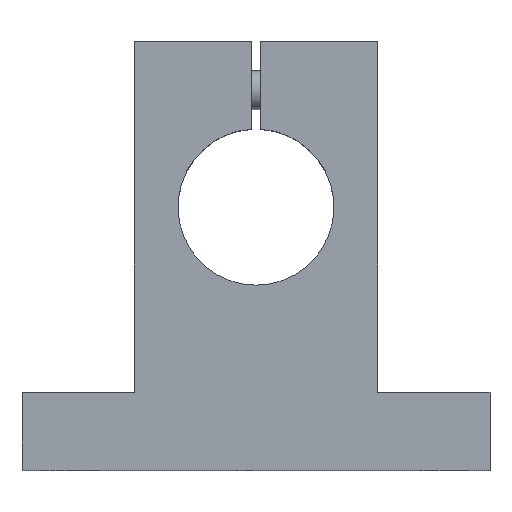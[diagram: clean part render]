
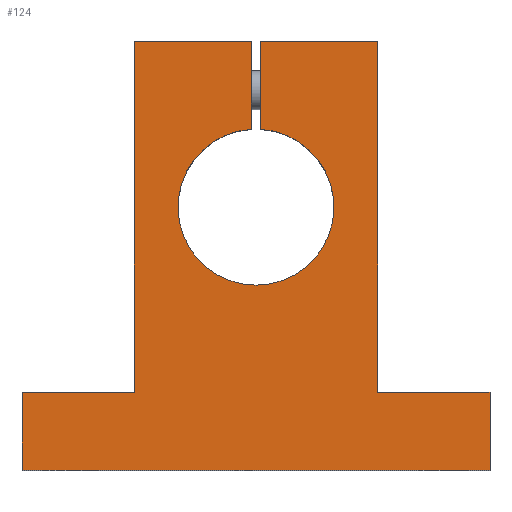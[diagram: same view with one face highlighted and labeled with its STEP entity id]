
A CAD part, top view. The second image highlights one B-rep face of the part: STEP entity #124.
In plain terms, the highlighted planar face has unit normal (0, 0, 1).
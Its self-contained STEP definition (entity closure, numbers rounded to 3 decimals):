
#124=ADVANCED_FACE('',(#160),#161,.T.);
#160=FACE_OUTER_BOUND('',#248,.T.);
#161=PLANE('',#249);
#248=EDGE_LOOP('',(#341,#342,#343,#344,#345,#346,#347,#348,#349,#350,#351,#352));
#249=AXIS2_PLACEMENT_3D('',#353,#354,#355);
#341=ORIENTED_EDGE('',*,*,#580,.F.);
#342=ORIENTED_EDGE('',*,*,#578,.F.);
#343=ORIENTED_EDGE('',*,*,#581,.F.);
#344=ORIENTED_EDGE('',*,*,#582,.F.);
#345=ORIENTED_EDGE('',*,*,#583,.F.);
#346=ORIENTED_EDGE('',*,*,#584,.F.);
#347=ORIENTED_EDGE('',*,*,#585,.F.);
#348=ORIENTED_EDGE('',*,*,#586,.F.);
#349=ORIENTED_EDGE('',*,*,#587,.F.);
#350=ORIENTED_EDGE('',*,*,#588,.F.);
#351=ORIENTED_EDGE('',*,*,#589,.F.);
#352=ORIENTED_EDGE('',*,*,#590,.F.);
#353=CARTESIAN_POINT('',(0.0,0.0,8.0));
#354=DIRECTION('',(0.0,0.0,1.0));
#355=DIRECTION('',(1.0,0.0,0.0));
#578=EDGE_CURVE('',#649,#651,#652,.T.);
#580=EDGE_CURVE('',#651,#654,#655,.T.);
#581=EDGE_CURVE('',#656,#649,#657,.T.);
#582=EDGE_CURVE('',#658,#656,#659,.T.);
#583=EDGE_CURVE('',#660,#658,#661,.T.);
#584=EDGE_CURVE('',#662,#660,#663,.T.);
#585=EDGE_CURVE('',#664,#662,#665,.T.);
#586=EDGE_CURVE('',#666,#664,#667,.T.);
#587=EDGE_CURVE('',#668,#666,#669,.T.);
#588=EDGE_CURVE('',#670,#668,#671,.T.);
#589=EDGE_CURVE('',#672,#670,#673,.T.);
#590=EDGE_CURVE('',#654,#672,#674,.T.);
#649=VERTEX_POINT('',#772);
#651=VERTEX_POINT('',#775);
#652=LINE('',#776,#777);
#654=VERTEX_POINT('',#780);
#655=LINE('',#781,#782);
#656=VERTEX_POINT('',#783);
#657=LINE('',#784,#785);
#658=VERTEX_POINT('',#786);
#659=LINE('',#787,#788);
#660=VERTEX_POINT('',#789);
#661=LINE('',#790,#791);
#662=VERTEX_POINT('',#792);
#663=LINE('',#793,#794);
#664=VERTEX_POINT('',#795);
#665=LINE('',#796,#797);
#666=VERTEX_POINT('',#798);
#667=LINE('',#799,#800);
#668=VERTEX_POINT('',#801);
#669=CIRCLE('',#802,8.0);
#670=VERTEX_POINT('',#803);
#671=LINE('',#804,#805);
#672=VERTEX_POINT('',#806);
#673=LINE('',#807,#808);
#674=LINE('',#809,#810);
#772=CARTESIAN_POINT('',(-24.0,-27.0,8.0));
#775=CARTESIAN_POINT('',(-24.0,-19.0,8.0));
#776=CARTESIAN_POINT('',(-24.0,-27.0,8.0));
#777=VECTOR('',#977,1.0);
#780=CARTESIAN_POINT('',(-12.5,-19.0,8.0));
#781=CARTESIAN_POINT('',(-24.0,-19.0,8.0));
#782=VECTOR('',#979,1.0);
#783=CARTESIAN_POINT('',(24.0,-27.0,8.0));
#784=CARTESIAN_POINT('',(24.0,-27.0,8.0));
#785=VECTOR('',#980,1.0);
#786=CARTESIAN_POINT('',(24.0,-19.0,8.0));
#787=CARTESIAN_POINT('',(24.0,-19.0,8.0));
#788=VECTOR('',#981,1.0);
#789=CARTESIAN_POINT('',(12.5,-19.0,8.0));
#790=CARTESIAN_POINT('',(12.5,-19.0,8.0));
#791=VECTOR('',#982,1.0);
#792=CARTESIAN_POINT('',(12.5,17.0,8.0));
#793=CARTESIAN_POINT('',(12.5,17.0,8.0));
#794=VECTOR('',#983,1.0);
#795=CARTESIAN_POINT('',(0.5,17.0,8.0));
#796=CARTESIAN_POINT('',(0.5,17.0,8.0));
#797=VECTOR('',#984,1.0);
#798=CARTESIAN_POINT('',(0.5,7.984,8.0));
#799=CARTESIAN_POINT('',(0.5,7.984,8.0));
#800=VECTOR('',#985,1.0);
#801=CARTESIAN_POINT('',(-0.5,7.984,8.0));
#802=AXIS2_PLACEMENT_3D('',#986,#987,#988);
#803=CARTESIAN_POINT('',(-0.5,17.0,8.0));
#804=CARTESIAN_POINT('',(-0.5,17.0,8.0));
#805=VECTOR('',#989,1.0);
#806=CARTESIAN_POINT('',(-12.5,17.0,8.0));
#807=CARTESIAN_POINT('',(-12.5,17.0,8.0));
#808=VECTOR('',#990,1.0);
#809=CARTESIAN_POINT('',(-12.5,-19.0,8.0));
#810=VECTOR('',#991,1.0);
#977=DIRECTION('',(0.0,1.0,0.0));
#979=DIRECTION('',(1.0,0.0,0.0));
#980=DIRECTION('',(-1.0,0.0,0.0));
#981=DIRECTION('',(0.0,-1.0,0.0));
#982=DIRECTION('',(1.0,0.0,0.0));
#983=DIRECTION('',(0.0,-1.0,0.0));
#984=DIRECTION('',(1.0,0.0,0.0));
#985=DIRECTION('',(0.0,1.0,0.0));
#986=CARTESIAN_POINT('',(0.0,0.0,8.0));
#987=DIRECTION('',(0.0,0.0,1.0));
#988=DIRECTION('',(1.0,0.0,0.0));
#989=DIRECTION('',(0.,-1.0,0.0));
#990=DIRECTION('',(1.0,0.0,0.0));
#991=DIRECTION('',(0.0,1.0,0.0));
